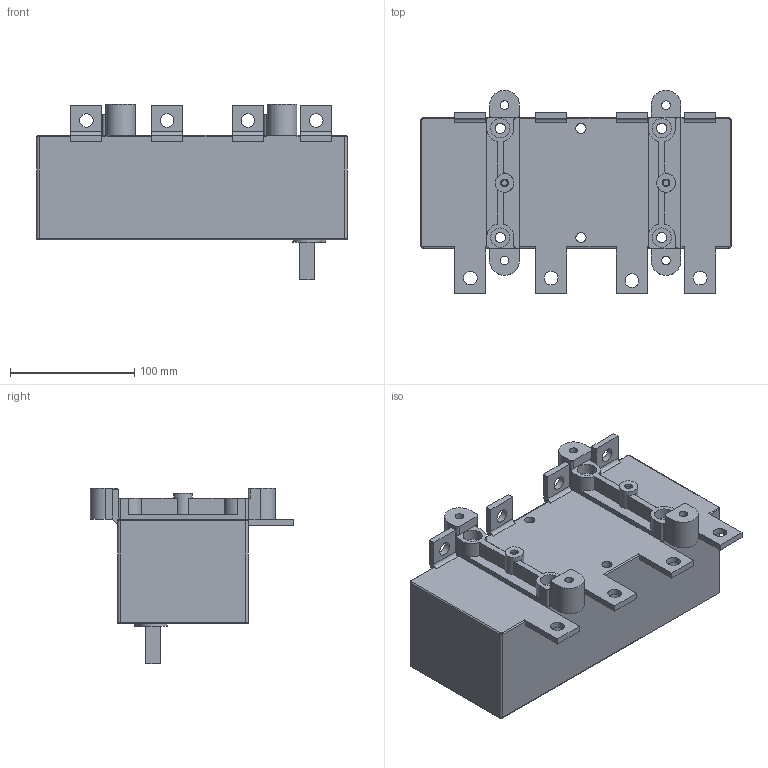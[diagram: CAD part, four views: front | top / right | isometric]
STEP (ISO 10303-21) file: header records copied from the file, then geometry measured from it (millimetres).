
FILE_DESCRIPTION(/* description */ (''),/* implementation_level */ '2;1');
FILE_NAME(/* name */ 'RA630 P3 NB.stp',/* time_stamp */ '2021-08-19T08:33:40+02:00',/* author */ (''),/* organization */ (''),/* preprocessor_version */ 'ST-DEVELOPER v18.1',/* originating_system */ 'SIEMENS PLM Software NX 1965',/* authorisation */ '');
FILE_SCHEMA (('AUTOMOTIVE_DESIGN { 1 0 10303 214 3 1 1 1 }'));
Length unit declared in the file: millimetre
Products named in the file (1): RA630 P3 NB_stp
Bounding box: 250 x 163.65 x 141 mm (x, y, z)
Volume: 2291333.3 mm3; surface area: 165784.4 mm2
Topology: 1 solids, 1 shells, 214 faces, 576 edges, 378 vertices
Faces by surface type: plane 108, cylinder 98, torus 5, bspline 3
Full cylindrical faces by diameter (mm): 4.8 x2, 6.2 x2, 7 x4, 8.2 x6, 11 x8, 14 x4, 15 x2, 15.5 x4
Entity records: 6697 total; most frequent: CARTESIAN_POINT 1196, DIRECTION 1172, ORIENTED_EDGE 1080, EDGE_CURVE 540, AXIS2_PLACEMENT_3D 422, VERTEX_POINT 374, LINE 328, VECTOR 328
